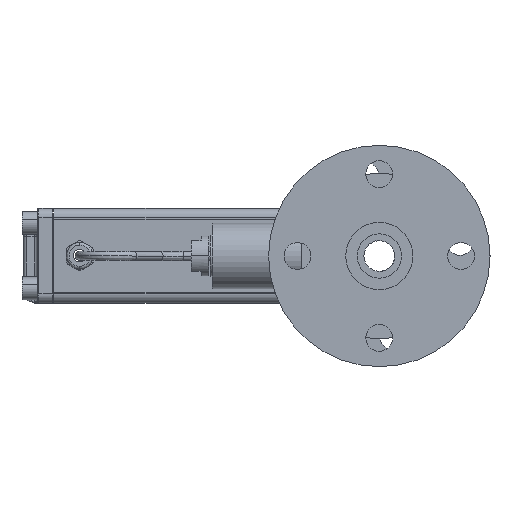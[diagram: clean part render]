
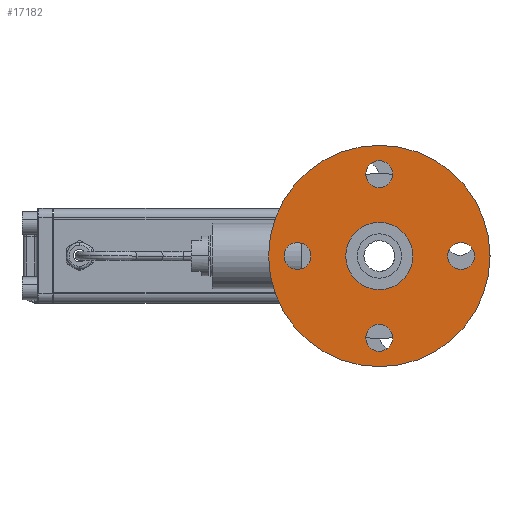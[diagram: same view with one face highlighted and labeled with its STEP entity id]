
A CAD part, left-side view. The second image highlights one B-rep face of the part: STEP entity #17182.
In plain terms, the highlighted planar face has unit normal (-1, 0, 0).
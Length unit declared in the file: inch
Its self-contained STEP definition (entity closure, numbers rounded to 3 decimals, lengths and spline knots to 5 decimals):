
#482 = CARTESIAN_POINT ( 'NONE',  ( -6.57874, 1.38386, -1.40264 ) ) ;
#528 = CARTESIAN_POINT ( 'NONE',  ( -6.57874, 1.38386, -0.005 ) ) ;
#566 = VERTEX_POINT ( 'NONE', #12291 ) ;
#799 = ORIENTED_EDGE ( 'NONE', *, *, #11697, .T. ) ;
#802 = AXIS2_PLACEMENT_3D ( 'NONE', #11078, #7641, #11428 ) ;
#871 = AXIS2_PLACEMENT_3D ( 'NONE', #18466, #7082, #15924 ) ;
#940 = CIRCLE ( 'NONE', #3875, 0.68701 ) ;
#1048 = CARTESIAN_POINT ( 'NONE',  ( -6.57874, 1.38386, -0.005 ) ) ;
#1099 = DIRECTION ( 'NONE',  ( 0., 0., -1. ) ) ;
#1242 = FACE_BOUND ( 'NONE', #8364, .T. ) ;
#1329 = DIRECTION ( 'NONE',  ( 1., 0., 0. ) ) ;
#1368 = CARTESIAN_POINT ( 'NONE',  ( -6.57874, 1.38386, 1.66823 ) ) ;
#1838 = EDGE_CURVE ( 'NONE', #15283, #566, #5853, .T. ) ;
#2297 = AXIS2_PLACEMENT_3D ( 'NONE', #4710, #11688, #18711 ) ;
#2659 = CARTESIAN_POINT ( 'NONE',  ( -6.57874, 1.38386, -1.95382 ) ) ;
#2769 = FACE_OUTER_BOUND ( 'NONE', #6988, .T. ) ;
#2947 = CARTESIAN_POINT ( 'NONE',  ( -6.57874, 3.05709, 0.27059 ) ) ;
#3252 = VERTEX_POINT ( 'NONE', #4850 ) ;
#3742 = CIRCLE ( 'NONE', #802, 0.27559 ) ;
#3750 = CARTESIAN_POINT ( 'NONE',  ( -6.57874, 3.05709, -0.28059 ) ) ;
#3772 = DIRECTION ( 'NONE',  ( 1., 0., 0. ) ) ;
#3860 = EDGE_LOOP ( 'NONE', ( #20711, #16507 ) ) ;
#3875 = AXIS2_PLACEMENT_3D ( 'NONE', #528, #19616, #7542 ) ;
#3894 = CARTESIAN_POINT ( 'NONE',  ( -6.57874, -0.28937, -0.005 ) ) ;
#4001 = CIRCLE ( 'NONE', #12449, 0.27559 ) ;
#4033 = ORIENTED_EDGE ( 'NONE', *, *, #9457, .F. ) ;
#4345 = CARTESIAN_POINT ( 'NONE',  ( -6.57874, 1.38386, 1.94382 ) ) ;
#4590 = ORIENTED_EDGE ( 'NONE', *, *, #1838, .T. ) ;
#4700 = DIRECTION ( 'NONE',  ( 1., 0., 0. ) ) ;
#4710 = CARTESIAN_POINT ( 'NONE',  ( -6.57874, 1.38386, -0.005 ) ) ;
#4770 = DIRECTION ( 'NONE',  ( 1., 0., 0. ) ) ;
#4850 = CARTESIAN_POINT ( 'NONE',  ( -6.57874, -0.28937, 0.27059 ) ) ;
#4911 = VERTEX_POINT ( 'NONE', #2659 ) ;
#5114 = AXIS2_PLACEMENT_3D ( 'NONE', #17307, #1329, #13842 ) ;
#5178 = VERTEX_POINT ( 'NONE', #4345 ) ;
#5598 = DIRECTION ( 'NONE',  ( 0., 0., -1. ) ) ;
#5727 = AXIS2_PLACEMENT_3D ( 'NONE', #6518, #13528, #6633 ) ;
#5853 = CIRCLE ( 'NONE', #5114, 0.68701 ) ;
#6027 = AXIS2_PLACEMENT_3D ( 'NONE', #16724, #4770, #1099 ) ;
#6453 = AXIS2_PLACEMENT_3D ( 'NONE', #11922, #20753, #15145 ) ;
#6518 = CARTESIAN_POINT ( 'NONE',  ( -6.57874, 1.38386, 1.66823 ) ) ;
#6556 = CIRCLE ( 'NONE', #9479, 0.27559 ) ;
#6633 = DIRECTION ( 'NONE',  ( 0., 0., -1. ) ) ;
#6823 = CARTESIAN_POINT ( 'NONE',  ( -6.57874, 1.38386, 1.39264 ) ) ;
#6850 = CARTESIAN_POINT ( 'NONE',  ( -6.57874, 1.38386, -1.67823 ) ) ;
#6988 = EDGE_LOOP ( 'NONE', ( #4033, #15466 ) ) ;
#7082 = DIRECTION ( 'NONE',  ( 1., 0., 0. ) ) ;
#7212 = VERTEX_POINT ( 'NONE', #12756 ) ;
#7319 = CIRCLE ( 'NONE', #21602, 0.27559 ) ;
#7542 = DIRECTION ( 'NONE',  ( 0., 0., 1. ) ) ;
#7641 = DIRECTION ( 'NONE',  ( 1., 0., 0. ) ) ;
#7653 = VERTEX_POINT ( 'NONE', #12494 ) ;
#7775 = EDGE_CURVE ( 'NONE', #566, #15283, #940, .T. ) ;
#7793 = VERTEX_POINT ( 'NONE', #14637 ) ;
#7895 = AXIS2_PLACEMENT_3D ( 'NONE', #1048, #21717, #15047 ) ;
#8227 = CIRCLE ( 'NONE', #6027, 0.27559 ) ;
#8239 = DIRECTION ( 'NONE',  ( 0., 0., -1. ) ) ;
#8364 = EDGE_LOOP ( 'NONE', ( #14572, #4590 ) ) ;
#9168 = DIRECTION ( 'NONE',  ( 1., 0., 0. ) ) ;
#9457 = EDGE_CURVE ( 'NONE', #7212, #7653, #22578, .T. ) ;
#9479 = AXIS2_PLACEMENT_3D ( 'NONE', #14635, #19824, #9590 ) ;
#9590 = DIRECTION ( 'NONE',  ( 0., 0., -1. ) ) ;
#9620 = FACE_BOUND ( 'NONE', #14059, .T. ) ;
#9970 = VERTEX_POINT ( 'NONE', #482 ) ;
#11029 = ORIENTED_EDGE ( 'NONE', *, *, #14915, .T. ) ;
#11078 = CARTESIAN_POINT ( 'NONE',  ( -6.57874, 3.05709, -0.005 ) ) ;
#11428 = DIRECTION ( 'NONE',  ( 0., 0., -1. ) ) ;
#11545 = EDGE_CURVE ( 'NONE', #16538, #5178, #7319, .T. ) ;
#11688 = DIRECTION ( 'NONE',  ( 1., 0., 0. ) ) ;
#11697 = EDGE_CURVE ( 'NONE', #3252, #7793, #4001, .T. ) ;
#11922 = CARTESIAN_POINT ( 'NONE',  ( -6.57874, 1.38386, -0.005 ) ) ;
#11960 = CIRCLE ( 'NONE', #5727, 0.27559 ) ;
#12291 = CARTESIAN_POINT ( 'NONE',  ( -6.57874, 1.38386, 0.68201 ) ) ;
#12449 = AXIS2_PLACEMENT_3D ( 'NONE', #3894, #9168, #5598 ) ;
#12494 = CARTESIAN_POINT ( 'NONE',  ( -6.57874, 1.38386, -2.26878 ) ) ;
#12728 = ORIENTED_EDGE ( 'NONE', *, *, #14375, .T. ) ;
#12756 = CARTESIAN_POINT ( 'NONE',  ( -6.57874, 1.38386, 2.25878 ) ) ;
#12962 = FACE_BOUND ( 'NONE', #3860, .T. ) ;
#13026 = CIRCLE ( 'NONE', #7895, 2.26378 ) ;
#13273 = VERTEX_POINT ( 'NONE', #2947 ) ;
#13528 = DIRECTION ( 'NONE',  ( 1., 0., 0. ) ) ;
#13842 = DIRECTION ( 'NONE',  ( 0., 0., 1. ) ) ;
#14059 = EDGE_LOOP ( 'NONE', ( #799, #16738 ) ) ;
#14375 = EDGE_CURVE ( 'NONE', #15476, #13273, #3742, .T. ) ;
#14572 = ORIENTED_EDGE ( 'NONE', *, *, #7775, .T. ) ;
#14635 = CARTESIAN_POINT ( 'NONE',  ( -6.57874, -0.28937, -0.005 ) ) ;
#14637 = CARTESIAN_POINT ( 'NONE',  ( -6.57874, -0.28937, -0.28059 ) ) ;
#14915 = EDGE_CURVE ( 'NONE', #4911, #9970, #16982, .T. ) ;
#15047 = DIRECTION ( 'NONE',  ( 0., 0., -1. ) ) ;
#15145 = DIRECTION ( 'NONE',  ( 0., 0., -1. ) ) ;
#15151 = AXIS2_PLACEMENT_3D ( 'NONE', #6850, #4700, #8239 ) ;
#15283 = VERTEX_POINT ( 'NONE', #18789 ) ;
#15391 = EDGE_CURVE ( 'NONE', #9970, #4911, #21412, .T. ) ;
#15466 = ORIENTED_EDGE ( 'NONE', *, *, #16250, .F. ) ;
#15476 = VERTEX_POINT ( 'NONE', #3750 ) ;
#15871 = EDGE_LOOP ( 'NONE', ( #20284, #12728 ) ) ;
#15924 = DIRECTION ( 'NONE',  ( 0., 0., -1. ) ) ;
#16250 = EDGE_CURVE ( 'NONE', #7653, #7212, #13026, .T. ) ;
#16507 = ORIENTED_EDGE ( 'NONE', *, *, #11545, .T. ) ;
#16538 = VERTEX_POINT ( 'NONE', #6823 ) ;
#16724 = CARTESIAN_POINT ( 'NONE',  ( -6.57874, 3.05709, -0.005 ) ) ;
#16738 = ORIENTED_EDGE ( 'NONE', *, *, #21105, .T. ) ;
#16887 = FACE_BOUND ( 'NONE', #22038, .T. ) ;
#16982 = CIRCLE ( 'NONE', #15151, 0.27559 ) ;
#17182 = ADVANCED_FACE ( 'NONE', ( #1242, #2769, #16887, #9620, #12962, #21928 ), #20435, .F. ) ;
#17307 = CARTESIAN_POINT ( 'NONE',  ( -6.57874, 1.38386, -0.005 ) ) ;
#17577 = DIRECTION ( 'NONE',  ( 0., 0., -1. ) ) ;
#18159 = EDGE_CURVE ( 'NONE', #13273, #15476, #8227, .T. ) ;
#18466 = CARTESIAN_POINT ( 'NONE',  ( -6.57874, 1.38386, -1.67823 ) ) ;
#18711 = DIRECTION ( 'NONE',  ( 0., 0., -1. ) ) ;
#18789 = CARTESIAN_POINT ( 'NONE',  ( -6.57874, 1.38386, -0.69201 ) ) ;
#18899 = ORIENTED_EDGE ( 'NONE', *, *, #15391, .T. ) ;
#19616 = DIRECTION ( 'NONE',  ( 1., 0., 0. ) ) ;
#19784 = EDGE_CURVE ( 'NONE', #5178, #16538, #11960, .T. ) ;
#19824 = DIRECTION ( 'NONE',  ( 1., 0., 0. ) ) ;
#20284 = ORIENTED_EDGE ( 'NONE', *, *, #18159, .T. ) ;
#20435 = PLANE ( 'NONE',  #2297 ) ;
#20711 = ORIENTED_EDGE ( 'NONE', *, *, #19784, .T. ) ;
#20753 = DIRECTION ( 'NONE',  ( 1., 0., 0. ) ) ;
#21105 = EDGE_CURVE ( 'NONE', #7793, #3252, #6556, .T. ) ;
#21412 = CIRCLE ( 'NONE', #871, 0.27559 ) ;
#21602 = AXIS2_PLACEMENT_3D ( 'NONE', #1368, #3772, #17577 ) ;
#21717 = DIRECTION ( 'NONE',  ( 1., 0., 0. ) ) ;
#21928 = FACE_BOUND ( 'NONE', #15871, .T. ) ;
#22038 = EDGE_LOOP ( 'NONE', ( #18899, #11029 ) ) ;
#22578 = CIRCLE ( 'NONE', #6453, 2.26378 ) ;
